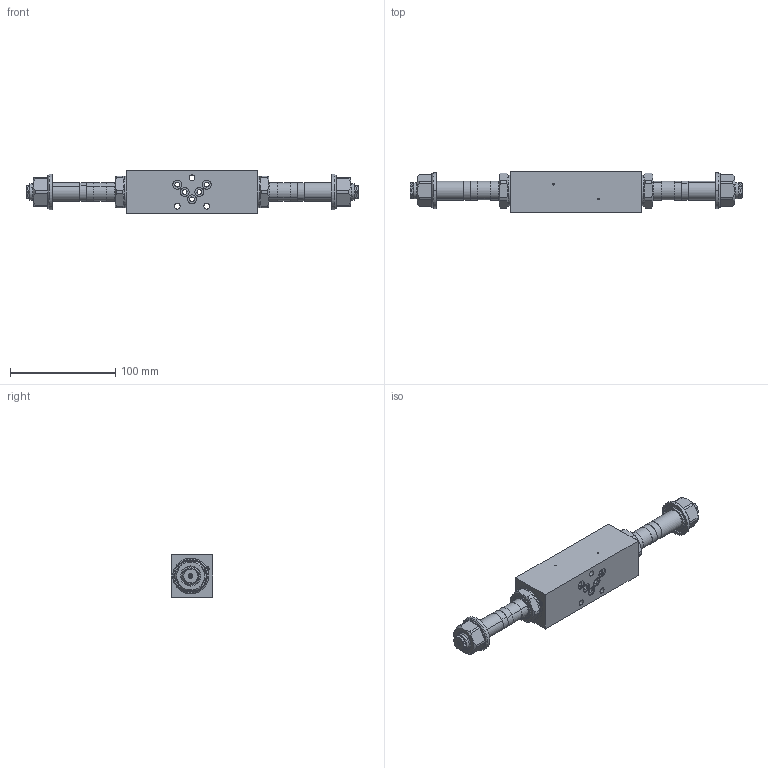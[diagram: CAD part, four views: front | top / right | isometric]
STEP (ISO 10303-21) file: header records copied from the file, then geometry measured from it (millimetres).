
FILE_DESCRIPTION (( 'STEP AP214' ), '1' );
FILE_NAME ('B.BSA04-AB.STEP', '2017-03-23T15:01:07', ( '' ), ( '' ), 'SwSTEP 2.0', 'SolidWorks 2016', '' );
FILE_SCHEMA (( 'AUTOMOTIVE_DESIGN' ));
Length unit declared in the file: millimetre
Products named in the file (1): B.BSA04-AB
Bounding box: 315.6 x 39.5 x 40 mm (x, y, z)
Volume: 262075.1 mm3; surface area: 49024.9 mm2
Topology: 3 solids, 3 shells, 485 faces, 1188 edges, 750 vertices
Faces by surface type: cylinder 164, plane 149, cone 112, torus 44, bspline 12, sphere 4
Entity records: 20131 total; most frequent: CARTESIAN_POINT 3468, DIRECTION 2570, ORIENTED_EDGE 2368, EDGE_CURVE 1184, AXIS2_PLACEMENT_3D 1068, VERTEX_POINT 750, CIRCLE 594, EDGE_LOOP 550
